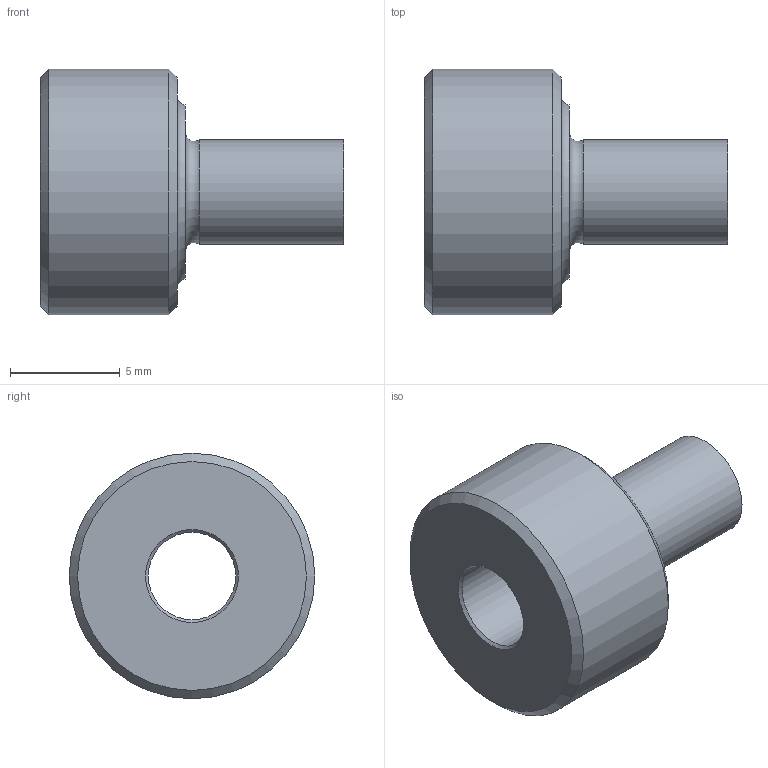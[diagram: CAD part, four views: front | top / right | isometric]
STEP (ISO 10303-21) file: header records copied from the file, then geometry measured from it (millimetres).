
FILE_DESCRIPTION( ( 'STEP AP214' ), '1' );
FILE_NAME( 'p:/temp/worker_33/temp/app_46_02019012316250871554211192d056f_000000_00_00_000000/format_0/MB1SS.stp', '2019-01-23T15:25:09', ( '' ), ( '' ), ' ', 'PARTsolutions', ' ' );
FILE_SCHEMA( ( 'AUTOMOTIVE_DESIGN { 1 0 10303 214 1 1 1 1 }' ) );
Length unit declared in the file: inch
Products named in the file (1): _MB1SS
Bounding box: 13.8 x 11.18 x 11.18 mm (x, y, z)
Volume: 581 mm3; surface area: 655.7 mm2
Topology: 1 solids, 1 shells, 13 faces, 22 edges, 13 vertices
Faces by surface type: plane 4, cone 4, cylinder 3, torus 2
Full cylindrical faces by diameter (mm): 3.98 x1, 4.75 x1, 11.18 x1
Entity records: 388 total; most frequent: DIRECTION 54, CARTESIAN_POINT 40, AXIS2_PLACEMENT_3D 27, EDGE_LOOP 26, ORIENTED_EDGE 26, FACE_OUTER_BOUND 18, STYLED_ITEM 13, PRESENTATION_STYLE_ASSIGNMENT 13
